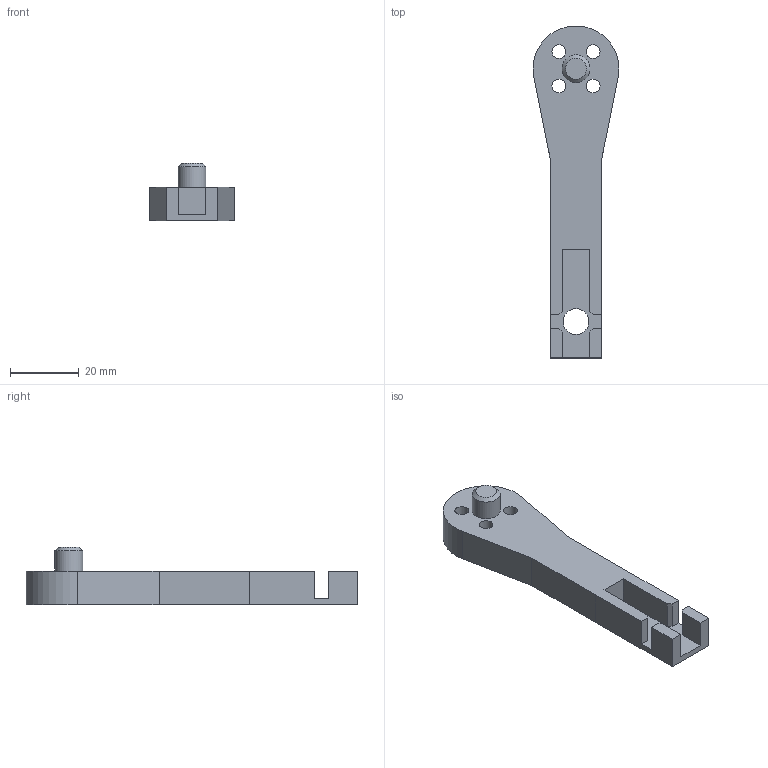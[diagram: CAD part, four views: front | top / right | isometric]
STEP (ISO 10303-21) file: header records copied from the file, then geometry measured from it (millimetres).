
FILE_DESCRIPTION(('STEP AP242 Edition 2','STEP AP242 Edition 2''CAx-IF Rec.Pracs.---Representation and Presentation of Product Manufacturing Information (PMI)---4.0---2014-10-13','STEP AP242 Edition 2''CAx-IF Rec.Pracs.---Representation and Presentation of Product Manufacturing Information (PMI)---4.0---2014-10-13''CAx-IF Rec.Pracs.---3D Tessellated Geometry---0.4---2014-09-14','STEP AP242 Edition 2''CAx-IF Rec.Pracs.---Representation and Presentation of Product Manufacturing Information (PMI)---4.0---2014-10-13''CAx-IF Rec.Pracs.---3D Tessellated Geometry---0.4---2014-09-14''2;1','STEP AP242 Edition 2''CAx-IF Rec.Pracs.---Representation and Presentation of Product Manufacturing Information (PMI)---4.0---2014-10-13''CAx-IF Rec.Pracs.---3D Tessellated Geometry---0.4---2014-09-14''2;1''CAx-IF Rec.Pracs.---User Defined Attributes---1.5---2016-08-15'),'2;1');
FILE_NAME('/vol/tmp/translate-1775843114321225475/Draw Bot V2 - L - L1 Arm.step','2026-03-21T23:30:43',(''),(''),'ST-DEVELOPER v20','ONSHAPE BY PTC INC, 1.212',' ');
FILE_SCHEMA(('AP242_MANAGED_MODEL_BASED_3D_ENGINEERING_MIM_LF { 1 0 10303 442 3 1 4 }'));
Length unit declared in the file: millimetre
Products named in the file (1): L - L1 Arm
Bounding box: 24.99 x 96.58 x 16.7 mm (x, y, z)
Volume: 13619.5 mm3; surface area: 6452.9 mm2
Topology: 1 solids, 1 shells, 34 faces, 92 edges, 61 vertices
Faces by surface type: plane 26, cylinder 7, cone 1
Full cylindrical faces by diameter (mm): 4 x4, 7.5 x1, 8.1 x1
Entity records: 1070 total; most frequent: CARTESIAN_POINT 181, ORIENTED_EDGE 170, DIRECTION 170, EDGE_CURVE 85, LINE 70, VECTOR 70, VERTEX_POINT 61, EDGE_LOOP 52
